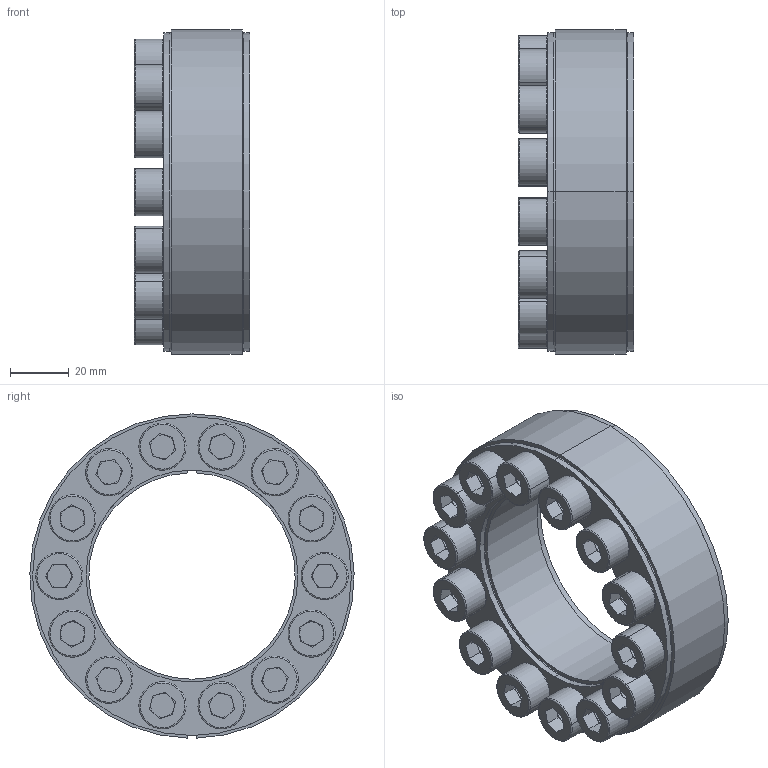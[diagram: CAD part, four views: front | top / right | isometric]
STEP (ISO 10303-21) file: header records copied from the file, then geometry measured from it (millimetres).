
FILE_DESCRIPTION (( 'STEP AP203' ), '1' );
FILE_NAME ('D1-70-110 Assy.STEP', '2017-10-11T05:39:28', ( 'MYCOM' ), ( '' ), 'SwSTEP 2.0', 'SolidWorks 2015', '' );
FILE_SCHEMA (( 'CONFIG_CONTROL_DESIGN' ));
Length unit declared in the file: millimetre
Products named in the file (1): D1-70-110 Assy
Bounding box: 39.14 x 109.99 x 109.98 mm (x, y, z)
Surface area: 57050.5 mm2 (no closed solid volume)
Topology: 0 solids, 32 shells, 354 faces, 888 edges, 554 vertices
Faces by surface type: plane 194, cylinder 95, torus 56, cone 9
Entity records: 10615 total; most frequent: DIRECTION 2017, CARTESIAN_POINT 1839, ORIENTED_EDGE 1578, EDGE_CURVE 888, AXIS2_PLACEMENT_3D 782, VERTEX_POINT 554, LINE 453, VECTOR 453
